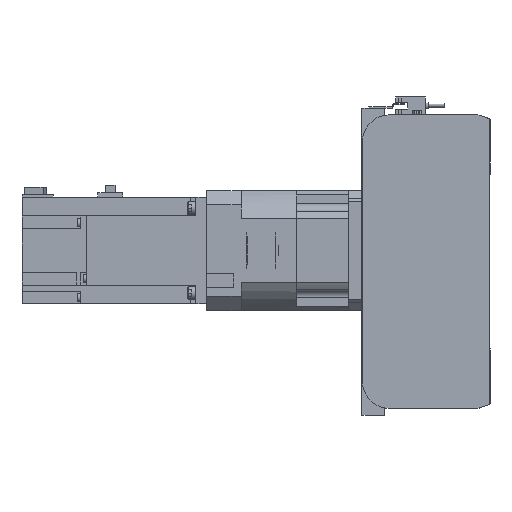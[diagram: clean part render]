
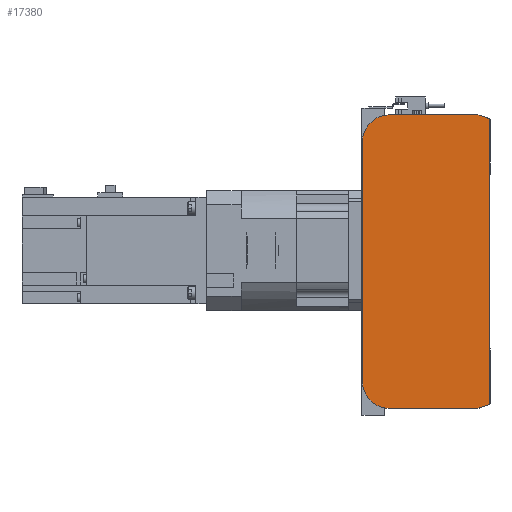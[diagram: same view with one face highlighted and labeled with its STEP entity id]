
A CAD part, left-side view. The second image highlights one B-rep face of the part: STEP entity #17380.
In plain terms, the highlighted planar face has unit normal (-1, 0, 0).
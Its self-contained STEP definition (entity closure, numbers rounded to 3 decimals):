
#982=CIRCLE('',#18957,20.);
#983=CIRCLE('',#18960,20.);
#4414=ORIENTED_EDGE('',*,*,#7560,.F.);
#4415=ORIENTED_EDGE('',*,*,#7602,.F.);
#4416=ORIENTED_EDGE('',*,*,#7600,.F.);
#4417=ORIENTED_EDGE('',*,*,#7598,.F.);
#4418=ORIENTED_EDGE('',*,*,#7587,.F.);
#4419=ORIENTED_EDGE('',*,*,#7578,.F.);
#4420=ORIENTED_EDGE('',*,*,#7574,.F.);
#4421=ORIENTED_EDGE('',*,*,#7571,.F.);
#7560=EDGE_CURVE('',#9477,#9478,#11035,.T.);
#7571=EDGE_CURVE('',#9478,#9485,#11046,.T.);
#7574=EDGE_CURVE('',#9485,#9487,#11049,.T.);
#7578=EDGE_CURVE('',#9487,#9488,#11053,.T.);
#7587=EDGE_CURVE('',#9488,#9494,#11062,.T.);
#7598=EDGE_CURVE('',#9494,#9501,#982,.T.);
#7600=EDGE_CURVE('',#9501,#9502,#11074,.T.);
#7602=EDGE_CURVE('',#9502,#9477,#983,.T.);
#9477=VERTEX_POINT('',#28567);
#9478=VERTEX_POINT('',#28569);
#9485=VERTEX_POINT('',#28588);
#9487=VERTEX_POINT('',#28594);
#9488=VERTEX_POINT('',#28600);
#9494=VERTEX_POINT('',#28616);
#9501=VERTEX_POINT('',#28635);
#9502=VERTEX_POINT('',#28639);
#11035=LINE('',#28568,#12600);
#11046=LINE('',#28587,#12611);
#11049=LINE('',#28593,#12614);
#11053=LINE('',#28599,#12618);
#11062=LINE('',#28615,#12627);
#11074=LINE('',#28638,#12639);
#12600=VECTOR('',#23020,1000.);
#12611=VECTOR('',#23033,1000.);
#12614=VECTOR('',#23038,1000.);
#12618=VECTOR('',#23044,1000.);
#12627=VECTOR('',#23055,1000.);
#12639=VECTOR('',#23073,1000.);
#14024=EDGE_LOOP('',(#4414,#4415,#4416,#4417,#4418,#4419,#4420,#4421));
#15550=FACE_BOUND('',#14024,.T.);
#16515=PLANE('',#18961);
#17380=ADVANCED_FACE('',(#15550),#16515,.F.);
#18957=AXIS2_PLACEMENT_3D('',#28634,#23068,#23069);
#18960=AXIS2_PLACEMENT_3D('',#28642,#23077,#23078);
#18961=AXIS2_PLACEMENT_3D('',#28643,#23079,#23080);
#23020=DIRECTION('',(0.,-1.,0.));
#23033=DIRECTION('',(0.,-0.945,-0.328));
#23038=DIRECTION('',(0.,0.,-1.));
#23044=DIRECTION('',(0.,0.945,-0.328));
#23055=DIRECTION('',(0.,1.,0.));
#23068=DIRECTION('',(1.,0.,0.));
#23069=DIRECTION('',(0.,0.,-1.));
#23073=DIRECTION('',(0.,0.,1.));
#23077=DIRECTION('',(1.,0.,0.));
#23078=DIRECTION('',(0.,0.,-1.));
#23079=DIRECTION('',(1.,0.,0.));
#23080=DIRECTION('',(0.,0.,-1.));
#28567=CARTESIAN_POINT('',(0.,75.5,110.));
#28568=CARTESIAN_POINT('',(0.,75.5,110.));
#28569=CARTESIAN_POINT('',(0.,9.,110.));
#28587=CARTESIAN_POINT('',(0.,9.,110.));
#28588=CARTESIAN_POINT('',(0.,0.5,107.05));
#28593=CARTESIAN_POINT('',(0.,0.5,107.05));
#28594=CARTESIAN_POINT('',(0.,0.5,-107.05));
#28599=CARTESIAN_POINT('',(0.,0.5,-107.05));
#28600=CARTESIAN_POINT('',(0.,9.,-110.));
#28615=CARTESIAN_POINT('',(0.,9.,-110.));
#28616=CARTESIAN_POINT('',(0.,75.5,-110.));
#28634=CARTESIAN_POINT('',(0.,75.5,-90.));
#28635=CARTESIAN_POINT('',(0.,95.5,-90.));
#28638=CARTESIAN_POINT('',(0.,95.5,-90.));
#28639=CARTESIAN_POINT('',(0.,95.5,90.));
#28642=CARTESIAN_POINT('',(0.,75.5,90.));
#28643=CARTESIAN_POINT('',(0.,75.5,-90.));
